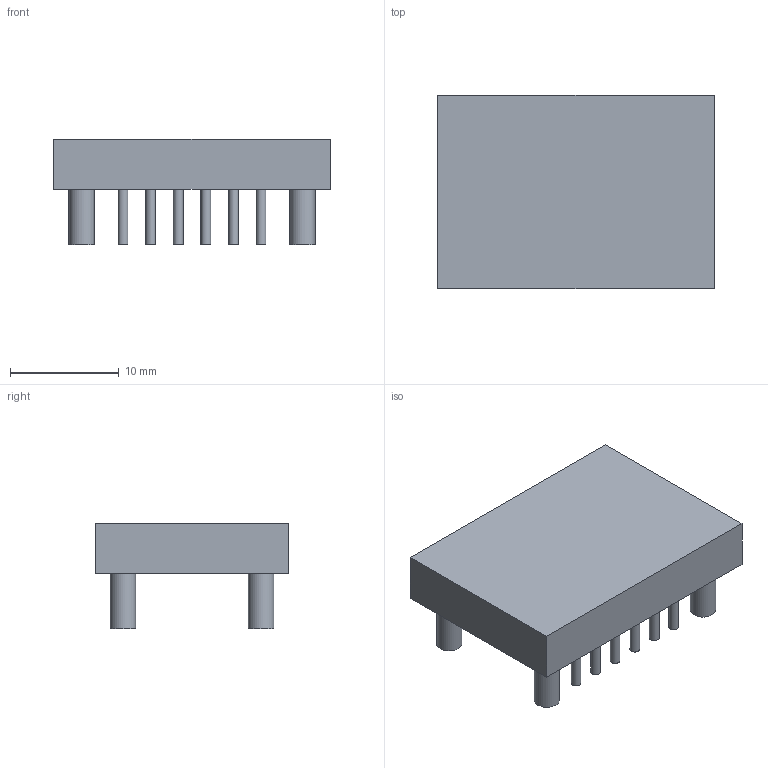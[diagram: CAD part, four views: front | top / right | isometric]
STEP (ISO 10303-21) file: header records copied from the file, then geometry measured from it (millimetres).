
FILE_DESCRIPTION(('FreeCAD Model'),'2;1');
FILE_NAME('/var/www/3D/0T/13666985.1.2.stp','2021-03-01T11:19:10',( 'Author'),(''),'Open CASCADE STEP processor 6.9','FreeCAD','Unknown' );
FILE_SCHEMA(('AUTOMOTIVE_DESIGN { 1 0 10303 214 1 1 1 1 }'));
Length unit declared in the file: millimetre
Products named in the file (3): ASSEMBLY; Body; Leads
Assembly tree (2 placements, depth 2):
  ASSEMBLY
    Body
    Leads
Bounding box: 25.4 x 17.78 x 9.7 mm (x, y, z)
Volume: 2204.9 mm3; surface area: 1675.4 mm2
Topology: 17 solids, 17 shells, 54 faces, 60 edges, 40 vertices
Faces by surface type: plane 38, cylinder 16
Full cylindrical faces by diameter (mm): 0.91 x12, 2.34 x4
Entity records: 1987 total; most frequent: DIRECTION 326, CARTESIAN_POINT 277, ORIENTED_EDGE 120, PCURVE 120, DEFINITIONAL_REPRESENTATION 120, LINE 116, VECTOR 116, AXIS2_PLACEMENT_3D 89
